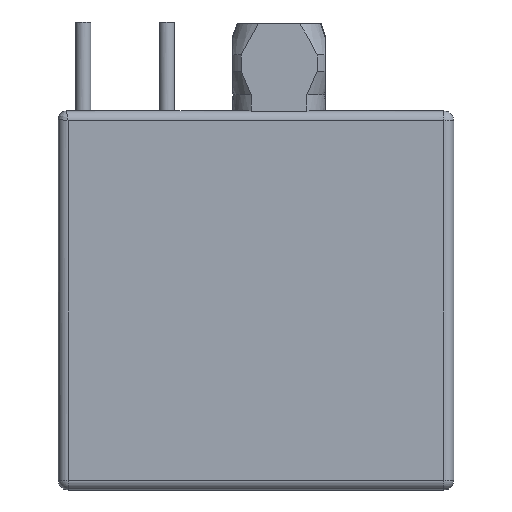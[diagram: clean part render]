
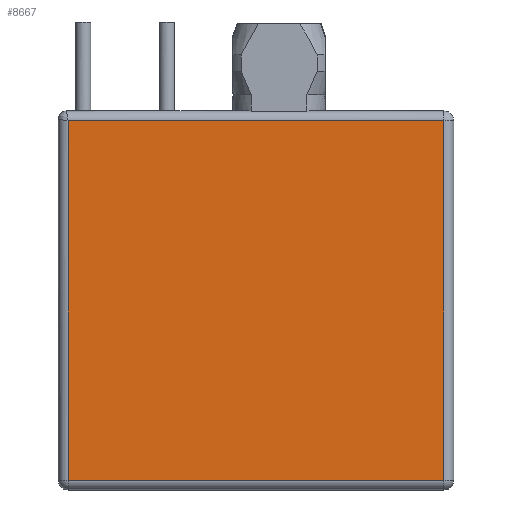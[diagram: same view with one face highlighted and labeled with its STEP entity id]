
A CAD part, front view. The second image highlights one B-rep face of the part: STEP entity #8667.
In plain terms, the highlighted planar face has unit normal (0, -1, 0).
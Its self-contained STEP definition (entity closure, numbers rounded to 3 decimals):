
#2034=CARTESIAN_POINT('',(-11.8,-6.52,-0.3));
#2063=DIRECTION('',(-1.,0.,0.));
#2064=VECTOR('',#2063,11.4);
#2065=CARTESIAN_POINT('',(-0.4,-6.52,-0.3));
#2066=LINE('',#2065,#2064);
#2488=DIRECTION('',(0.,0.,1.));
#2489=VECTOR('',#2488,10.9);
#2490=CARTESIAN_POINT('',(-0.4,-6.52,-11.2));
#2491=LINE('',#2490,#2489);
#2507=DIRECTION('',(1.,0.,0.));
#2508=VECTOR('',#2507,11.4);
#2509=CARTESIAN_POINT('',(-11.8,-6.52,-11.2));
#2510=LINE('',#2509,#2508);
#2530=DIRECTION('',(0.,0.,-1.));
#2531=VECTOR('',#2530,10.9);
#2532=CARTESIAN_POINT('',(-11.8,-6.52,-0.3));
#2533=LINE('',#2532,#2531);
#5345=CARTESIAN_POINT('',(-0.4,-6.52,-0.3));
#5346=VERTEX_POINT('',#5345);
#5347=VERTEX_POINT('',#2034);
#5351=CARTESIAN_POINT('',(-11.8,-6.52,-11.2));
#5352=VERTEX_POINT('',#5351);
#5353=CARTESIAN_POINT('',(-0.4,-6.52,-11.2));
#5354=VERTEX_POINT('',#5353);
#8656=CARTESIAN_POINT('',(0.,-6.52,0.));
#8657=DIRECTION('',(0.,-1.,0.));
#8658=DIRECTION('',(0.,0.,-1.));
#8659=AXIS2_PLACEMENT_3D('',#8656,#8657,#8658);
#8660=PLANE('',#8659);
#8661=ORIENTED_EDGE('',*,*,#8648,.F.);
#8662=ORIENTED_EDGE('',*,*,#8146,.F.);
#8663=ORIENTED_EDGE('',*,*,#8598,.F.);
#8664=ORIENTED_EDGE('',*,*,#8624,.F.);
#8665=EDGE_LOOP('',(#8661,#8662,#8663,#8664));
#8666=FACE_OUTER_BOUND('',#8665,.F.);
#8667=ADVANCED_FACE('',(#8666),#8660,.T.);
#8146=EDGE_CURVE('',#5346,#5347,#2066,.T.);
#8598=EDGE_CURVE('',#5354,#5346,#2491,.T.);
#8624=EDGE_CURVE('',#5352,#5354,#2510,.T.);
#8648=EDGE_CURVE('',#5347,#5352,#2533,.T.);
